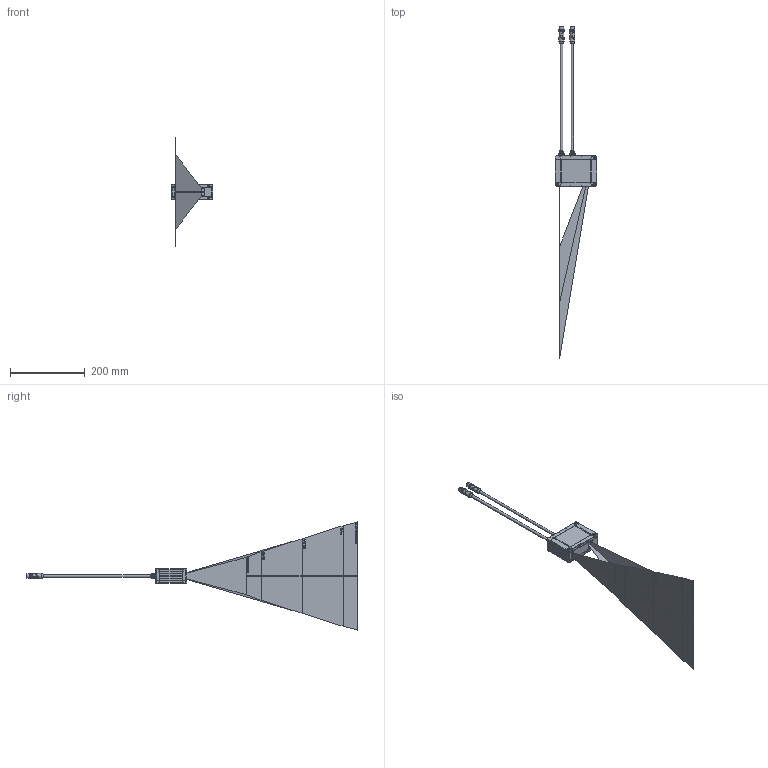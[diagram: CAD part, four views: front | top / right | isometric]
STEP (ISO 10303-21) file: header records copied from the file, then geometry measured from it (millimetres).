
FILE_DESCRIPTION (( 'STEP AP214' ), '1' );
FILE_NAME ('LLT30xx-200-PT.STEP', '2026-07-22T08:27:14', ( '' ), ( '' ), 'SwSTEP 2.0', 'SolidWorks 2024', '' );
FILE_SCHEMA (( 'AUTOMOTIVE_DESIGN' ));
Length unit declared in the file: millimetre
Products named in the file (1): LLT30xx-200-PT
Bounding box: 112 x 890.5 x 290 mm (x, y, z)
Volume: 392329.3 mm3; surface area: 292684.1 mm2
Topology: 3 solids, 10 shells, 4217 faces, 9621 edges, 5561 vertices
Faces by surface type: plane 2331, cone 936, cylinder 488, bspline 434, torus 28
Full cylindrical faces by diameter (mm): 0.6 x8, 0.7 x12, 2.4 x3, 3.8 x16, 4.2 x3, 4.4 x16, 6.8 x4, 8 x4, 8.35 x2, 8.4 x4, 9.2 x2, 9.4 x2, 9.5 x2, 10.5 x2, 10.7 x2, 11.2 x2, 12 x2, 13 x2, 13.5 x2, 15 x2
Entity records: 182125 total; most frequent: CARTESIAN_POINT 49773, ORIENTED_EDGE 18704, DIRECTION 15646, EDGE_CURVE 9352, AXIS2_PLACEMENT_3D 5678, VERTEX_POINT 5498, EDGE_LOOP 4578, FACE_OUTER_BOUND 4339
